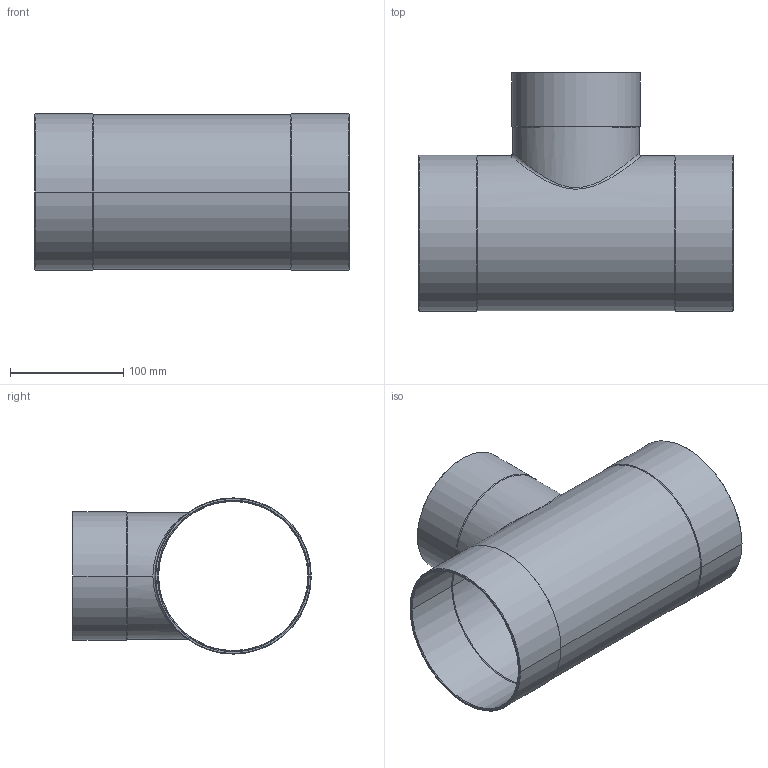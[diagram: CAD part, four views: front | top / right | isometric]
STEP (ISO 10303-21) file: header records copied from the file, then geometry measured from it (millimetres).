
FILE_DESCRIPTION((''),'2;1');
FILE_NAME('G:\Technics\CAD\Bauteile\15130\15130133108133.stp','2005-11-02T10:19:42',('boden'),(''),'Autodesk Inventor 8','Autodesk Inventor 8','');
FILE_SCHEMA(('AUTOMOTIVE_DESIGN { 1 0 10303 214 1 1 1 1 }'));
Length unit declared in the file: millimetre
Products named in the file (1): 15130133108133
Bounding box: 278 x 211.1 x 138.2 mm (x, y, z)
Volume: 344136 mm3; surface area: 278025 mm2
Topology: 1 solids, 1 shells, 49 faces, 108 edges, 60 vertices
Faces by surface type: cone 24, cylinder 20, plane 3, bspline 2
Entity records: 1893 total; most frequent: CARTESIAN_POINT 786, DIRECTION 242, ORIENTED_EDGE 216, EDGE_CURVE 108, AXIS2_PLACEMENT_3D 98, VERTEX_POINT 60, EDGE_LOOP 52, CIRCLE 50
